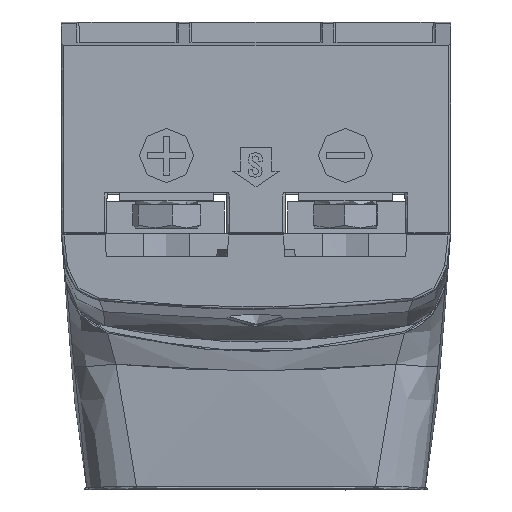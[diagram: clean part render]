
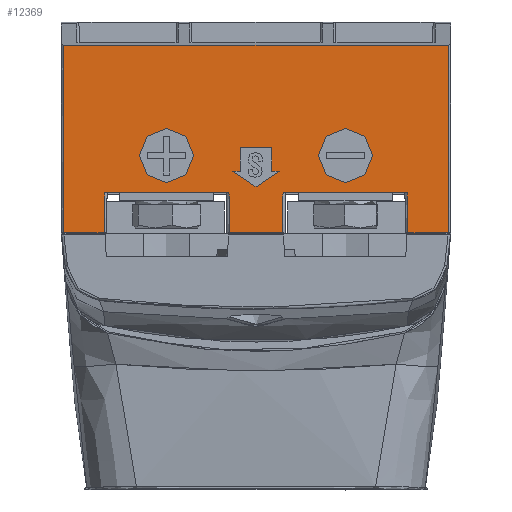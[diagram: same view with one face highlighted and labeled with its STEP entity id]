
A CAD part, top view. The second image highlights one B-rep face of the part: STEP entity #12369.
In plain terms, the highlighted planar face has unit normal (0, 0, 1) as drawn and (0, -1, 0) by its records, which use the part's own axes.
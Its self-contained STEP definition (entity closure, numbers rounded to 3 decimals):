
#297=FACE_BOUND('',#18683,.T.);
#298=FACE_BOUND('',#18684,.T.);
#299=FACE_BOUND('',#18685,.T.);
#12369=ADVANCED_FACE('',(#15470,#297,#298,#299),#90169,.T.);
#15470=FACE_OUTER_BOUND('',#18682,.T.);
#18682=EDGE_LOOP('',(#30368,#30369,#30370,#30371,#30372,#30373,#30374,#30375,
#30376,#30377,#30378,#30379));
#18683=EDGE_LOOP('',(#30380,#30381,#30382,#30383,#30384,#30385,#30386));
#18684=EDGE_LOOP('',(#30387,#30388));
#18685=EDGE_LOOP('',(#30389,#30390));
#30368=ORIENTED_EDGE('',*,*,#47583,.F.);
#30369=ORIENTED_EDGE('',*,*,#47584,.F.);
#30370=ORIENTED_EDGE('',*,*,#47585,.F.);
#30371=ORIENTED_EDGE('',*,*,#47586,.F.);
#30372=ORIENTED_EDGE('',*,*,#47587,.F.);
#30373=ORIENTED_EDGE('',*,*,#47588,.F.);
#30374=ORIENTED_EDGE('',*,*,#47589,.F.);
#30375=ORIENTED_EDGE('',*,*,#47590,.F.);
#30376=ORIENTED_EDGE('',*,*,#47591,.F.);
#30377=ORIENTED_EDGE('',*,*,#47592,.F.);
#30378=ORIENTED_EDGE('',*,*,#47593,.F.);
#30379=ORIENTED_EDGE('',*,*,#47594,.F.);
#30380=ORIENTED_EDGE('',*,*,#47573,.F.);
#30381=ORIENTED_EDGE('',*,*,#47574,.F.);
#30382=ORIENTED_EDGE('',*,*,#47575,.F.);
#30383=ORIENTED_EDGE('',*,*,#47576,.F.);
#30384=ORIENTED_EDGE('',*,*,#47577,.F.);
#30385=ORIENTED_EDGE('',*,*,#47578,.F.);
#30386=ORIENTED_EDGE('',*,*,#47572,.F.);
#30387=ORIENTED_EDGE('',*,*,#47579,.F.);
#30388=ORIENTED_EDGE('',*,*,#47580,.F.);
#30389=ORIENTED_EDGE('',*,*,#47581,.F.);
#30390=ORIENTED_EDGE('',*,*,#47582,.F.);
#47572=EDGE_CURVE('',#81948,#81949,#65695,.T.);
#47573=EDGE_CURVE('',#81950,#81948,#65696,.T.);
#47574=EDGE_CURVE('',#81951,#81950,#65697,.T.);
#47575=EDGE_CURVE('',#81952,#81951,#65698,.T.);
#47576=EDGE_CURVE('',#81953,#81952,#65699,.T.);
#47577=EDGE_CURVE('',#81954,#81953,#65700,.T.);
#47578=EDGE_CURVE('',#81949,#81954,#65701,.T.);
#47579=EDGE_CURVE('',#81955,#81956,#55976,.T.);
#47580=EDGE_CURVE('',#81956,#81955,#55977,.T.);
#47581=EDGE_CURVE('',#81957,#81958,#55978,.T.);
#47582=EDGE_CURVE('',#81958,#81957,#55979,.T.);
#47583=EDGE_CURVE('',#81959,#81960,#65702,.T.);
#47584=EDGE_CURVE('',#81961,#81959,#65703,.T.);
#47585=EDGE_CURVE('',#81962,#81961,#65704,.T.);
#47586=EDGE_CURVE('',#81963,#81962,#65705,.T.);
#47587=EDGE_CURVE('',#81964,#81963,#65706,.T.);
#47588=EDGE_CURVE('',#81965,#81964,#65707,.T.);
#47589=EDGE_CURVE('',#81966,#81965,#65708,.T.);
#47590=EDGE_CURVE('',#81967,#81966,#65709,.T.);
#47591=EDGE_CURVE('',#81968,#81967,#65710,.T.);
#47592=EDGE_CURVE('',#81969,#81968,#65711,.T.);
#47593=EDGE_CURVE('',#81970,#81969,#65712,.T.);
#47594=EDGE_CURVE('',#81960,#81970,#65713,.T.);
#55976=(
BOUNDED_CURVE()
B_SPLINE_CURVE(2,(#145417,#145418,#145419,#145420,#145421),
 .UNSPECIFIED.,.F.,.F.)
B_SPLINE_CURVE_WITH_KNOTS((3,2,3),(0.,5.498,10.996),
 .UNSPECIFIED.)
CURVE()
GEOMETRIC_REPRESENTATION_ITEM()
RATIONAL_B_SPLINE_CURVE((1.,0.707,1.,0.707,1.))
REPRESENTATION_ITEM('')
);
#55977=(
BOUNDED_CURVE()
B_SPLINE_CURVE(2,(#145422,#145423,#145424,#145425,#145426),
 .UNSPECIFIED.,.F.,.F.)
B_SPLINE_CURVE_WITH_KNOTS((3,2,3),(0.,5.498,10.996),
 .UNSPECIFIED.)
CURVE()
GEOMETRIC_REPRESENTATION_ITEM()
RATIONAL_B_SPLINE_CURVE((1.,0.707,1.,0.707,1.))
REPRESENTATION_ITEM('')
);
#55978=(
BOUNDED_CURVE()
B_SPLINE_CURVE(2,(#145427,#145428,#145429,#145430,#145431),
 .UNSPECIFIED.,.F.,.F.)
B_SPLINE_CURVE_WITH_KNOTS((3,2,3),(0.,5.498,10.996),
 .UNSPECIFIED.)
CURVE()
GEOMETRIC_REPRESENTATION_ITEM()
RATIONAL_B_SPLINE_CURVE((1.,0.707,1.,0.707,1.))
REPRESENTATION_ITEM('')
);
#55979=(
BOUNDED_CURVE()
B_SPLINE_CURVE(2,(#145432,#145433,#145434,#145435,#145436),
 .UNSPECIFIED.,.F.,.F.)
B_SPLINE_CURVE_WITH_KNOTS((3,2,3),(0.,5.498,10.996),
 .UNSPECIFIED.)
CURVE()
GEOMETRIC_REPRESENTATION_ITEM()
RATIONAL_B_SPLINE_CURVE((1.,0.707,1.,0.707,1.))
REPRESENTATION_ITEM('')
);
#65695=B_SPLINE_CURVE_WITH_KNOTS('',1,(#145403,#145404),.UNSPECIFIED.,.F.,
 .F.,(2,2),(0.,3.606),.UNSPECIFIED.);
#65696=B_SPLINE_CURVE_WITH_KNOTS('',1,(#145405,#145406),.UNSPECIFIED.,.F.,
 .F.,(2,2),(0.,3.606),.UNSPECIFIED.);
#65697=B_SPLINE_CURVE_WITH_KNOTS('',1,(#145407,#145408),.UNSPECIFIED.,.F.,
 .F.,(2,2),(0.,1.),.UNSPECIFIED.);
#65698=B_SPLINE_CURVE_WITH_KNOTS('',1,(#145409,#145410),.UNSPECIFIED.,.F.,
 .F.,(2,2),(0.,3.),.UNSPECIFIED.);
#65699=B_SPLINE_CURVE_WITH_KNOTS('',1,(#145411,#145412),.UNSPECIFIED.,.F.,
 .F.,(2,2),(0.,4.),.UNSPECIFIED.);
#65700=B_SPLINE_CURVE_WITH_KNOTS('',1,(#145413,#145414),.UNSPECIFIED.,.F.,
 .F.,(2,2),(0.,3.),.UNSPECIFIED.);
#65701=B_SPLINE_CURVE_WITH_KNOTS('',1,(#145415,#145416),.UNSPECIFIED.,.F.,
 .F.,(2,2),(0.,1.),.UNSPECIFIED.);
#65702=B_SPLINE_CURVE_WITH_KNOTS('',1,(#145437,#145438),.UNSPECIFIED.,.F.,
 .F.,(2,2),(0.,5.176),.UNSPECIFIED.);
#65703=B_SPLINE_CURVE_WITH_KNOTS('',1,(#145439,#145440),.UNSPECIFIED.,.F.,
 .F.,(2,2),(-24.1,0.),.UNSPECIFIED.);
#65704=B_SPLINE_CURVE_WITH_KNOTS('',1,(#145441,#145442),.UNSPECIFIED.,.F.,
 .F.,(2,2),(0.,49.4),.UNSPECIFIED.);
#65705=B_SPLINE_CURVE_WITH_KNOTS('',1,(#145443,#145444),.UNSPECIFIED.,.F.,
 .F.,(2,2),(-24.1,0.),.UNSPECIFIED.);
#65706=B_SPLINE_CURVE_WITH_KNOTS('',1,(#145445,#145446),.UNSPECIFIED.,.F.,
 .F.,(2,2),(0.,5.176),.UNSPECIFIED.);
#65707=B_SPLINE_CURVE_WITH_KNOTS('',1,(#145447,#145448),.UNSPECIFIED.,.F.,
 .F.,(2,2),(-5.101,0.),.UNSPECIFIED.);
#65708=B_SPLINE_CURVE_WITH_KNOTS('',1,(#145449,#145450),.UNSPECIFIED.,.F.,
 .F.,(2,2),(0.,15.964),.UNSPECIFIED.);
#65709=B_SPLINE_CURVE_WITH_KNOTS('',1,(#145451,#145452),.UNSPECIFIED.,.F.,
 .F.,(2,2),(-5.1,0.),.UNSPECIFIED.);
#65710=B_SPLINE_CURVE_WITH_KNOTS('',1,(#145453,#145454),.UNSPECIFIED.,.F.,
 .F.,(2,2),(0.,6.853),.UNSPECIFIED.);
#65711=B_SPLINE_CURVE_WITH_KNOTS('',1,(#145455,#145456),.UNSPECIFIED.,.F.,
 .F.,(2,2),(-5.1,0.),.UNSPECIFIED.);
#65712=B_SPLINE_CURVE_WITH_KNOTS('',1,(#145457,#145458),.UNSPECIFIED.,.F.,
 .F.,(2,2),(0.,15.964),.UNSPECIFIED.);
#65713=B_SPLINE_CURVE_WITH_KNOTS('',1,(#145459,#145460),.UNSPECIFIED.,.F.,
 .F.,(2,2),(-5.101,0.),.UNSPECIFIED.);
#81948=VERTEX_POINT('',#145380);
#81949=VERTEX_POINT('',#145381);
#81950=VERTEX_POINT('',#145382);
#81951=VERTEX_POINT('',#145383);
#81952=VERTEX_POINT('',#145384);
#81953=VERTEX_POINT('',#145385);
#81954=VERTEX_POINT('',#145386);
#81955=VERTEX_POINT('',#145387);
#81956=VERTEX_POINT('',#145388);
#81957=VERTEX_POINT('',#145389);
#81958=VERTEX_POINT('',#145390);
#81959=VERTEX_POINT('',#145391);
#81960=VERTEX_POINT('',#145392);
#81961=VERTEX_POINT('',#145393);
#81962=VERTEX_POINT('',#145394);
#81963=VERTEX_POINT('',#145395);
#81964=VERTEX_POINT('',#145396);
#81965=VERTEX_POINT('',#145397);
#81966=VERTEX_POINT('',#145398);
#81967=VERTEX_POINT('',#145399);
#81968=VERTEX_POINT('',#145400);
#81969=VERTEX_POINT('',#145401);
#81970=VERTEX_POINT('',#145402);
#90169=PLANE('',#93115);
#93115=AXIS2_PLACEMENT_3D('',#145379,#95416,$);
#95416=DIRECTION('',(0.,-1.,0.));
#145379=CARTESIAN_POINT('',(-29.64,-55.,-4.61));
#145380=CARTESIAN_POINT('',(0.,-55.,16.));
#145381=CARTESIAN_POINT('',(-3.,-55.,14.));
#145382=CARTESIAN_POINT('',(3.,-55.,14.));
#145383=CARTESIAN_POINT('',(2.,-55.,14.));
#145384=CARTESIAN_POINT('',(2.,-55.,11.));
#145385=CARTESIAN_POINT('',(-2.,-55.,11.));
#145386=CARTESIAN_POINT('',(-2.,-55.,14.));
#145387=CARTESIAN_POINT('',(-11.5,-55.,8.5));
#145388=CARTESIAN_POINT('',(-11.5,-55.,15.5));
#145389=CARTESIAN_POINT('',(11.5,-55.,8.5));
#145390=CARTESIAN_POINT('',(11.5,-55.,15.5));
#145391=CARTESIAN_POINT('',(-24.7,-55.,21.9));
#145392=CARTESIAN_POINT('',(-19.524,-55.,21.9));
#145393=CARTESIAN_POINT('',(-24.7,-55.,-2.2));
#145394=CARTESIAN_POINT('',(24.7,-55.,-2.2));
#145395=CARTESIAN_POINT('',(24.7,-55.,21.9));
#145396=CARTESIAN_POINT('',(19.524,-55.,21.9));
#145397=CARTESIAN_POINT('',(19.435,-55.,16.8));
#145398=CARTESIAN_POINT('',(3.471,-55.,16.8));
#145399=CARTESIAN_POINT('',(3.426,-55.,21.9));
#145400=CARTESIAN_POINT('',(-3.426,-55.,21.9));
#145401=CARTESIAN_POINT('',(-3.471,-55.,16.8));
#145402=CARTESIAN_POINT('',(-19.435,-55.,16.8));
#145403=CARTESIAN_POINT('',(0.,-55.,16.));
#145404=CARTESIAN_POINT('',(-3.,-55.,14.));
#145405=CARTESIAN_POINT('',(3.,-55.,14.));
#145406=CARTESIAN_POINT('',(0.,-55.,16.));
#145407=CARTESIAN_POINT('',(2.,-55.,14.));
#145408=CARTESIAN_POINT('',(3.,-55.,14.));
#145409=CARTESIAN_POINT('',(2.,-55.,11.));
#145410=CARTESIAN_POINT('',(2.,-55.,14.));
#145411=CARTESIAN_POINT('',(-2.,-55.,11.));
#145412=CARTESIAN_POINT('',(2.,-55.,11.));
#145413=CARTESIAN_POINT('',(-2.,-55.,14.));
#145414=CARTESIAN_POINT('',(-2.,-55.,11.));
#145415=CARTESIAN_POINT('',(-3.,-55.,14.));
#145416=CARTESIAN_POINT('',(-2.,-55.,14.));
#145417=CARTESIAN_POINT('',(-11.5,-55.,8.5));
#145418=CARTESIAN_POINT('',(-8.,-55.,8.5));
#145419=CARTESIAN_POINT('',(-8.,-55.,12.));
#145420=CARTESIAN_POINT('',(-8.,-55.,15.5));
#145421=CARTESIAN_POINT('',(-11.5,-55.,15.5));
#145422=CARTESIAN_POINT('',(-11.5,-55.,15.5));
#145423=CARTESIAN_POINT('',(-15.,-55.,15.5));
#145424=CARTESIAN_POINT('',(-15.,-55.,12.));
#145425=CARTESIAN_POINT('',(-15.,-55.,8.5));
#145426=CARTESIAN_POINT('',(-11.5,-55.,8.5));
#145427=CARTESIAN_POINT('',(11.5,-55.,8.5));
#145428=CARTESIAN_POINT('',(15.,-55.,8.5));
#145429=CARTESIAN_POINT('',(15.,-55.,12.));
#145430=CARTESIAN_POINT('',(15.,-55.,15.5));
#145431=CARTESIAN_POINT('',(11.5,-55.,15.5));
#145432=CARTESIAN_POINT('',(11.5,-55.,15.5));
#145433=CARTESIAN_POINT('',(8.,-55.,15.5));
#145434=CARTESIAN_POINT('',(8.,-55.,12.));
#145435=CARTESIAN_POINT('',(8.,-55.,8.5));
#145436=CARTESIAN_POINT('',(11.5,-55.,8.5));
#145437=CARTESIAN_POINT('',(-24.7,-55.,21.9));
#145438=CARTESIAN_POINT('',(-19.524,-55.,21.9));
#145439=CARTESIAN_POINT('',(-24.7,-55.,-2.2));
#145440=CARTESIAN_POINT('',(-24.7,-55.,21.9));
#145441=CARTESIAN_POINT('',(24.7,-55.,-2.2));
#145442=CARTESIAN_POINT('',(-24.7,-55.,-2.2));
#145443=CARTESIAN_POINT('',(24.7,-55.,21.9));
#145444=CARTESIAN_POINT('',(24.7,-55.,-2.2));
#145445=CARTESIAN_POINT('',(19.524,-55.,21.9));
#145446=CARTESIAN_POINT('',(24.7,-55.,21.9));
#145447=CARTESIAN_POINT('',(19.435,-55.,16.8));
#145448=CARTESIAN_POINT('',(19.524,-55.,21.9));
#145449=CARTESIAN_POINT('',(3.471,-55.,16.8));
#145450=CARTESIAN_POINT('',(19.435,-55.,16.8));
#145451=CARTESIAN_POINT('',(3.426,-55.,21.9));
#145452=CARTESIAN_POINT('',(3.471,-55.,16.8));
#145453=CARTESIAN_POINT('',(-3.426,-55.,21.9));
#145454=CARTESIAN_POINT('',(3.426,-55.,21.9));
#145455=CARTESIAN_POINT('',(-3.471,-55.,16.8));
#145456=CARTESIAN_POINT('',(-3.426,-55.,21.9));
#145457=CARTESIAN_POINT('',(-19.435,-55.,16.8));
#145458=CARTESIAN_POINT('',(-3.471,-55.,16.8));
#145459=CARTESIAN_POINT('',(-19.524,-55.,21.9));
#145460=CARTESIAN_POINT('',(-19.435,-55.,16.8));
